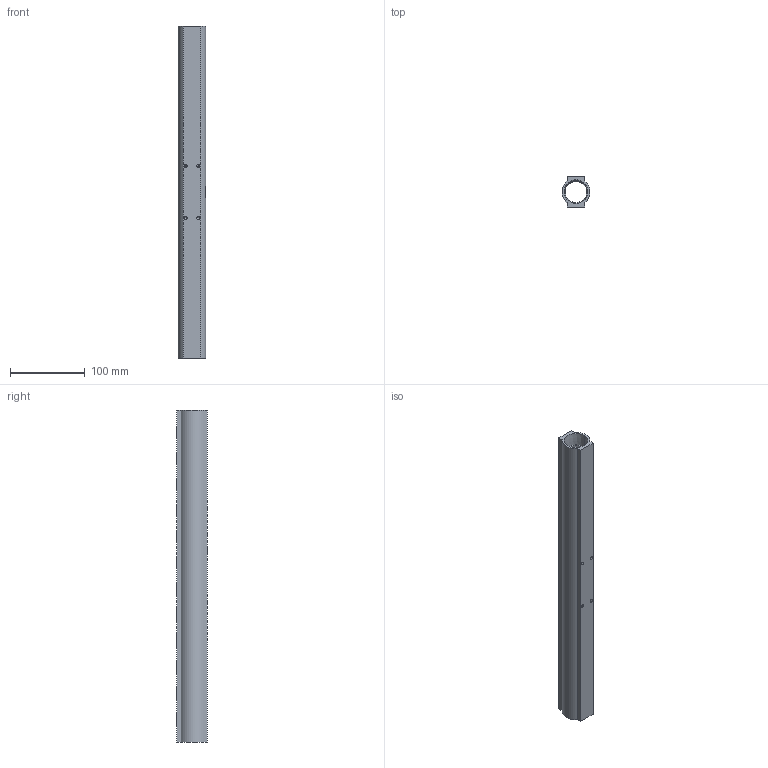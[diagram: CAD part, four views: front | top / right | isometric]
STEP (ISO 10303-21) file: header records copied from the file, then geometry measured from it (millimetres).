
FILE_DESCRIPTION (( 'STEP AP214' ), '1' );
FILE_NAME ('BWM12616B.STEP', '2022-03-15T05:19:17', ( '' ), ( '' ), 'SwSTEP 2.0', 'SolidWorks 2020', '' );
FILE_SCHEMA (( 'AUTOMOTIVE_DESIGN' ));
Length unit declared in the file: millimetre
Products named in the file (1): BWM12616B
Bounding box: 37.44 x 41 x 445 mm (x, y, z)
Volume: 244858 mm3; surface area: 103075 mm2
Topology: 1 solids, 1 shells, 230 faces, 619 edges, 406 vertices
Faces by surface type: plane 105, bspline 47, cylinder 42, cone 36
Entity records: 13035 total; most frequent: CARTESIAN_POINT 5647, ORIENTED_EDGE 1222, DIRECTION 835, EDGE_CURVE 611, VERTEX_POINT 406, LINE 303, VECTOR 303, EDGE_LOOP 279
